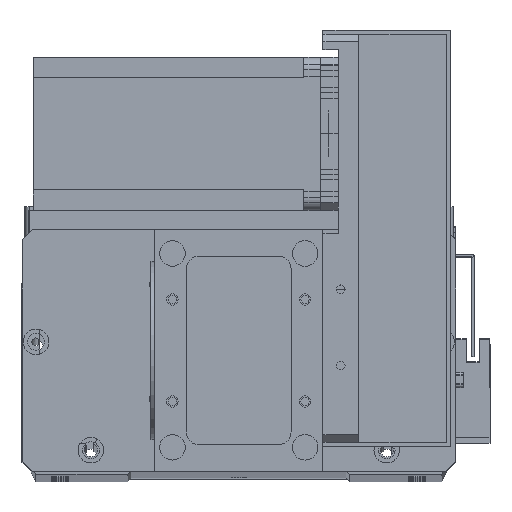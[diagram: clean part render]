
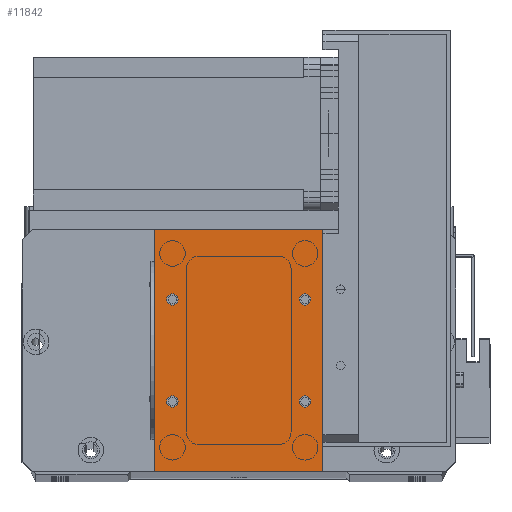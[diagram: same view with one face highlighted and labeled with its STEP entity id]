
A CAD part, top view. The second image highlights one B-rep face of the part: STEP entity #11842.
In plain terms, the highlighted planar face has unit normal (0, 0, 1).
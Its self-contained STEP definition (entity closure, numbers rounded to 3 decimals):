
#1190 = DIRECTION ( 'NONE',  ( 1., 0., 0. ) ) ;
#1404 = FACE_BOUND ( 'NONE', #18344, .T. ) ;
#1589 = ORIENTED_EDGE ( 'NONE', *, *, #17906, .F. ) ;
#1711 = DIRECTION ( 'NONE',  ( 0., 0., 1. ) ) ;
#2044 = EDGE_LOOP ( 'NONE', ( #30776, #28865 ) ) ;
#2322 = CARTESIAN_POINT ( 'NONE',  ( 0., 0., 2. ) ) ;
#2519 = DIRECTION ( 'NONE',  ( -1., 0., 0. ) ) ;
#2792 = CIRCLE ( 'NONE', #32583, 2.25 ) ;
#2816 = AXIS2_PLACEMENT_3D ( 'NONE', #16854, #1711, #19409 ) ;
#3678 = EDGE_CURVE ( 'NONE', #25813, #10542, #15150, .T. ) ;
#3828 = VERTEX_POINT ( 'NONE', #25622 ) ;
#3987 = ORIENTED_EDGE ( 'NONE', *, *, #31042, .T. ) ;
#4599 = ORIENTED_EDGE ( 'NONE', *, *, #14317, .F. ) ;
#4810 = VERTEX_POINT ( 'NONE', #13525 ) ;
#5148 = CARTESIAN_POINT ( 'NONE',  ( 61.25, 67.5, 2. ) ) ;
#5407 = DIRECTION ( 'NONE',  ( 0., 0., -1. ) ) ;
#5606 = AXIS2_PLACEMENT_3D ( 'NONE', #14506, #32056, #17036 ) ;
#6431 = VECTOR ( 'NONE', #7360, 1000. ) ;
#6642 = AXIS2_PLACEMENT_3D ( 'NONE', #29228, #14186, #31726 ) ;
#6837 = CIRCLE ( 'NONE', #6642, 2.25 ) ;
#7360 = DIRECTION ( 'NONE',  ( 0., 1., 0. ) ) ;
#7368 = FACE_OUTER_BOUND ( 'NONE', #7782, .T. ) ;
#7782 = EDGE_LOOP ( 'NONE', ( #14597, #31245, #21271, #3987 ) ) ;
#7792 = VECTOR ( 'NONE', #20019, 1000. ) ;
#7847 = EDGE_CURVE ( 'NONE', #10542, #25813, #22432, .T. ) ;
#7854 = DIRECTION ( 'NONE',  ( 0., 0., 1. ) ) ;
#7910 = VERTEX_POINT ( 'NONE', #24816 ) ;
#8149 = EDGE_CURVE ( 'NONE', #22400, #32218, #27137, .T. ) ;
#8605 = AXIS2_PLACEMENT_3D ( 'NONE', #24256, #9144, #26794 ) ;
#8653 = CARTESIAN_POINT ( 'NONE',  ( 0., 0., 2. ) ) ;
#8942 = CIRCLE ( 'NONE', #19281, 2.25 ) ;
#9144 = DIRECTION ( 'NONE',  ( 0., 0., 1. ) ) ;
#9286 = EDGE_CURVE ( 'NONE', #25974, #22400, #28213, .T. ) ;
#9342 = DIRECTION ( 'NONE',  ( 0., -1., 0. ) ) ;
#9671 = DIRECTION ( 'NONE',  ( 1., 0., 0. ) ) ;
#9910 = CARTESIAN_POINT ( 'NONE',  ( 66., 0., 2. ) ) ;
#10007 = DIRECTION ( 'NONE',  ( 0., 0., 1. ) ) ;
#10542 = VERTEX_POINT ( 'NONE', #17455 ) ;
#10796 = CARTESIAN_POINT ( 'NONE',  ( 59., 67.5, 2. ) ) ;
#11381 = ORIENTED_EDGE ( 'NONE', *, *, #25426, .F. ) ;
#11788 = EDGE_CURVE ( 'NONE', #22079, #4810, #8942, .T. ) ;
#11842 = ADVANCED_FACE ( 'NONE', ( #22392, #1404, #20800, #14111, #7368 ), #15503, .F. ) ;
#12323 = VERTEX_POINT ( 'NONE', #20107 ) ;
#12422 = DIRECTION ( 'NONE',  ( 0., 0., 1. ) ) ;
#12597 = CARTESIAN_POINT ( 'NONE',  ( 0., 95., 2. ) ) ;
#12731 = LINE ( 'NONE', #12597, #25335 ) ;
#13177 = LINE ( 'NONE', #9910, #6431 ) ;
#13525 = CARTESIAN_POINT ( 'NONE',  ( 4.75, 27.5, 2. ) ) ;
#14111 = FACE_BOUND ( 'NONE', #2044, .T. ) ;
#14186 = DIRECTION ( 'NONE',  ( 0., 0., 1. ) ) ;
#14317 = EDGE_CURVE ( 'NONE', #7910, #26737, #15984, .T. ) ;
#14506 = CARTESIAN_POINT ( 'NONE',  ( 59., 67.5, 2. ) ) ;
#14597 = ORIENTED_EDGE ( 'NONE', *, *, #9286, .T. ) ;
#14902 = EDGE_CURVE ( 'NONE', #3828, #31362, #6837, .T. ) ;
#15150 = CIRCLE ( 'NONE', #25930, 2.25 ) ;
#15503 = PLANE ( 'NONE',  #29371 ) ;
#15984 = CIRCLE ( 'NONE', #2816, 2.25 ) ;
#16368 = DIRECTION ( 'NONE',  ( 0., 0., 1. ) ) ;
#16428 = VECTOR ( 'NONE', #9342, 1000. ) ;
#16854 = CARTESIAN_POINT ( 'NONE',  ( 59., 27.5, 2. ) ) ;
#17036 = DIRECTION ( 'NONE',  ( 1., 0., 0. ) ) ;
#17307 = ORIENTED_EDGE ( 'NONE', *, *, #3678, .F. ) ;
#17455 = CARTESIAN_POINT ( 'NONE',  ( 56.75, 67.5, 2. ) ) ;
#17906 = EDGE_CURVE ( 'NONE', #26737, #7910, #21269, .T. ) ;
#18344 = EDGE_LOOP ( 'NONE', ( #17307, #23900 ) ) ;
#19281 = AXIS2_PLACEMENT_3D ( 'NONE', #27496, #12422, #30001 ) ;
#19409 = DIRECTION ( 'NONE',  ( 1., 0., 0. ) ) ;
#19496 = CARTESIAN_POINT ( 'NONE',  ( 61.25, 27.5, 2. ) ) ;
#19537 = EDGE_LOOP ( 'NONE', ( #1589, #4599 ) ) ;
#19697 = CARTESIAN_POINT ( 'NONE',  ( 66., 0., 2. ) ) ;
#19958 = CARTESIAN_POINT ( 'NONE',  ( 9.25, 27.5, 2. ) ) ;
#20019 = DIRECTION ( 'NONE',  ( 1., 0., 0. ) ) ;
#20107 = CARTESIAN_POINT ( 'NONE',  ( 66., 95., 2. ) ) ;
#20362 = EDGE_CURVE ( 'NONE', #4810, #22079, #23252, .T. ) ;
#20573 = CARTESIAN_POINT ( 'NONE',  ( 0., 0., 2. ) ) ;
#20800 = FACE_BOUND ( 'NONE', #19537, .T. ) ;
#20955 = CARTESIAN_POINT ( 'NONE',  ( 0., 95., 2. ) ) ;
#21269 = CIRCLE ( 'NONE', #26833, 2.25 ) ;
#21271 = ORIENTED_EDGE ( 'NONE', *, *, #31640, .T. ) ;
#21425 = CARTESIAN_POINT ( 'NONE',  ( 4.75, 67.5, 2. ) ) ;
#22079 = VERTEX_POINT ( 'NONE', #19958 ) ;
#22392 = FACE_BOUND ( 'NONE', #22951, .T. ) ;
#22400 = VERTEX_POINT ( 'NONE', #8653 ) ;
#22432 = CIRCLE ( 'NONE', #5606, 2.25 ) ;
#22951 = EDGE_LOOP ( 'NONE', ( #24870, #11381 ) ) ;
#22965 = CARTESIAN_POINT ( 'NONE',  ( 59., 27.5, 2. ) ) ;
#23086 = DIRECTION ( 'NONE',  ( -1., 0., 0. ) ) ;
#23252 = CIRCLE ( 'NONE', #8605, 2.25 ) ;
#23900 = ORIENTED_EDGE ( 'NONE', *, *, #7847, .F. ) ;
#24256 = CARTESIAN_POINT ( 'NONE',  ( 7., 27.5, 2. ) ) ;
#24816 = CARTESIAN_POINT ( 'NONE',  ( 56.75, 27.5, 2. ) ) ;
#24870 = ORIENTED_EDGE ( 'NONE', *, *, #14902, .F. ) ;
#25335 = VECTOR ( 'NONE', #2519, 1000. ) ;
#25426 = EDGE_CURVE ( 'NONE', #31362, #3828, #2792, .T. ) ;
#25495 = DIRECTION ( 'NONE',  ( 1., 0., 0. ) ) ;
#25622 = CARTESIAN_POINT ( 'NONE',  ( 9.25, 67.5, 2. ) ) ;
#25813 = VERTEX_POINT ( 'NONE', #5148 ) ;
#25930 = AXIS2_PLACEMENT_3D ( 'NONE', #10796, #10007, #9671 ) ;
#25974 = VERTEX_POINT ( 'NONE', #20955 ) ;
#26737 = VERTEX_POINT ( 'NONE', #19496 ) ;
#26794 = DIRECTION ( 'NONE',  ( 1., 0., 0. ) ) ;
#26833 = AXIS2_PLACEMENT_3D ( 'NONE', #22965, #7854, #25495 ) ;
#27004 = CARTESIAN_POINT ( 'NONE',  ( 0., 0., 2. ) ) ;
#27137 = LINE ( 'NONE', #2322, #7792 ) ;
#27496 = CARTESIAN_POINT ( 'NONE',  ( 7., 27.5, 2. ) ) ;
#28213 = LINE ( 'NONE', #27004, #16428 ) ;
#28865 = ORIENTED_EDGE ( 'NONE', *, *, #20362, .F. ) ;
#29228 = CARTESIAN_POINT ( 'NONE',  ( 7., 67.5, 2. ) ) ;
#29371 = AXIS2_PLACEMENT_3D ( 'NONE', #20573, #5407, #23086 ) ;
#30001 = DIRECTION ( 'NONE',  ( 1., 0., 0. ) ) ;
#30776 = ORIENTED_EDGE ( 'NONE', *, *, #11788, .F. ) ;
#31042 = EDGE_CURVE ( 'NONE', #12323, #25974, #12731, .T. ) ;
#31245 = ORIENTED_EDGE ( 'NONE', *, *, #8149, .T. ) ;
#31362 = VERTEX_POINT ( 'NONE', #21425 ) ;
#31383 = CARTESIAN_POINT ( 'NONE',  ( 7., 67.5, 2. ) ) ;
#31640 = EDGE_CURVE ( 'NONE', #32218, #12323, #13177, .T. ) ;
#31726 = DIRECTION ( 'NONE',  ( 1., 0., 0. ) ) ;
#32056 = DIRECTION ( 'NONE',  ( 0., 0., 1. ) ) ;
#32218 = VERTEX_POINT ( 'NONE', #19697 ) ;
#32583 = AXIS2_PLACEMENT_3D ( 'NONE', #31383, #16368, #1190 ) ;
